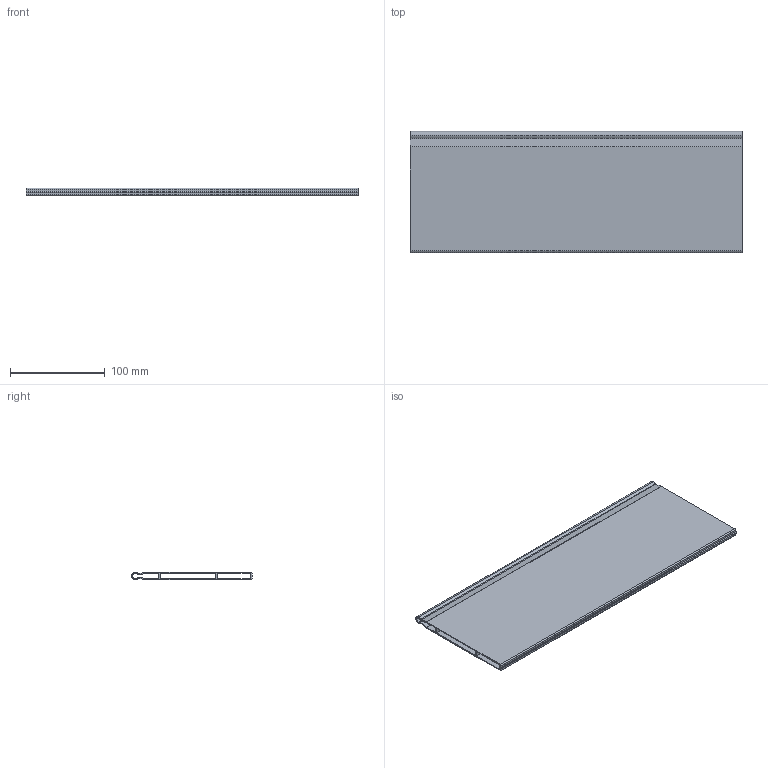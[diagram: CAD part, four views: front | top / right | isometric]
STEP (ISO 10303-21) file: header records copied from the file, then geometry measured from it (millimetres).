
FILE_DESCRIPTION (( 'STEP AP214' ), '1' );
FILE_NAME ('_Magic Optima Unterteilungsprofil DWD XP Agantis_Nova Pro KAB 500.step', '2010-08-17T12:26:44', ( 'grass' ), ( '' ), 'SwSTEP 2.0', 'SolidWorks 2010', '' );
FILE_SCHEMA (( 'AUTOMOTIVE_DESIGN' ));
Length unit declared in the file: millimetre
Products named in the file (1): _Magic Optima Unterteilungsprofil DWD XP Agantis_Nova Pro  KAB 500
Bounding box: 350 x 127.7 x 8.1 mm (x, y, z)
Volume: 122683.2 mm3; surface area: 190470.6 mm2
Topology: 1 solids, 1 shells, 39 faces, 111 edges, 74 vertices
Faces by surface type: plane 22, cylinder 17
Entity records: 1325 total; most frequent: DIRECTION 225, CARTESIAN_POINT 225, ORIENTED_EDGE 222, EDGE_CURVE 111, LINE 77, VECTOR 77, AXIS2_PLACEMENT_3D 74, VERTEX_POINT 74
